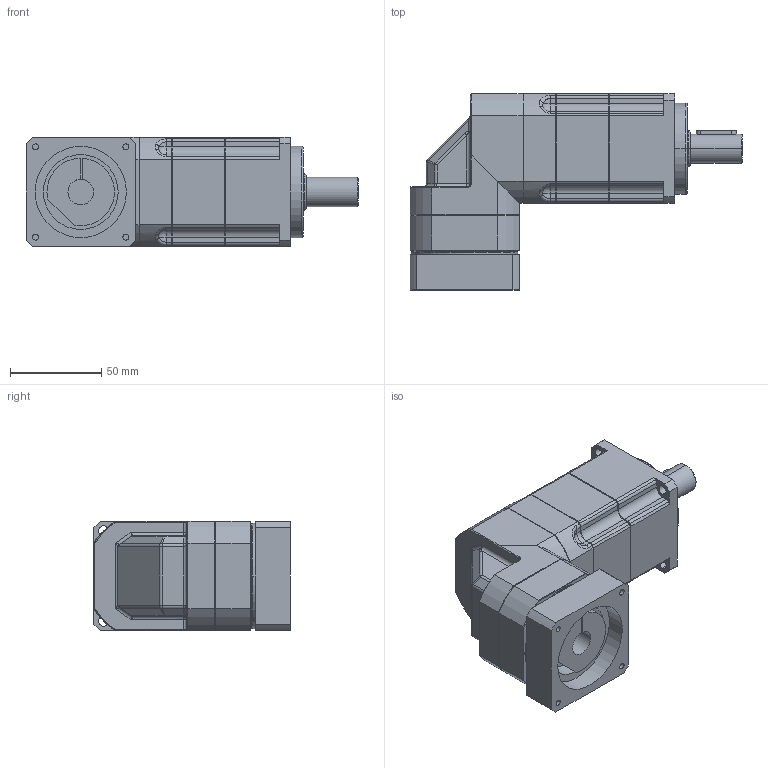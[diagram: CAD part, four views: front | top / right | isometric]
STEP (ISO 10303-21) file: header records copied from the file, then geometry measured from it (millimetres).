
FILE_DESCRIPTION (( 'STEP AP214' ), '1' );
FILE_NAME ('PAR060-L2-S2-P1 14-50-70-M4.STEP', '2025-02-15T05:47:16', ( '微软用户' ), ( '微软中国' ), 'SwSTEP 2.0', 'SolidWorks 2021', '' );
FILE_SCHEMA (( 'AUTOMOTIVE_DESIGN' ));
Length unit declared in the file: millimetre
Products named in the file (1): PAR060-L2-S2-P1 14-50-70-M4
Bounding box: 182 x 107.5 x 60 mm (x, y, z)
Volume: 572902.4 mm3; surface area: 58349 mm2
Topology: 1 solids, 1 shells, 461 faces, 1014 edges, 555 vertices
Faces by surface type: plane 161, cylinder 148, cone 110, bspline 24, sphere 10, torus 8
Entity records: 13234 total; most frequent: CARTESIAN_POINT 3379, DIRECTION 2116, ORIENTED_EDGE 1996, EDGE_CURVE 998, AXIS2_PLACEMENT_3D 804, VERTEX_POINT 555, LINE 508, VECTOR 508
